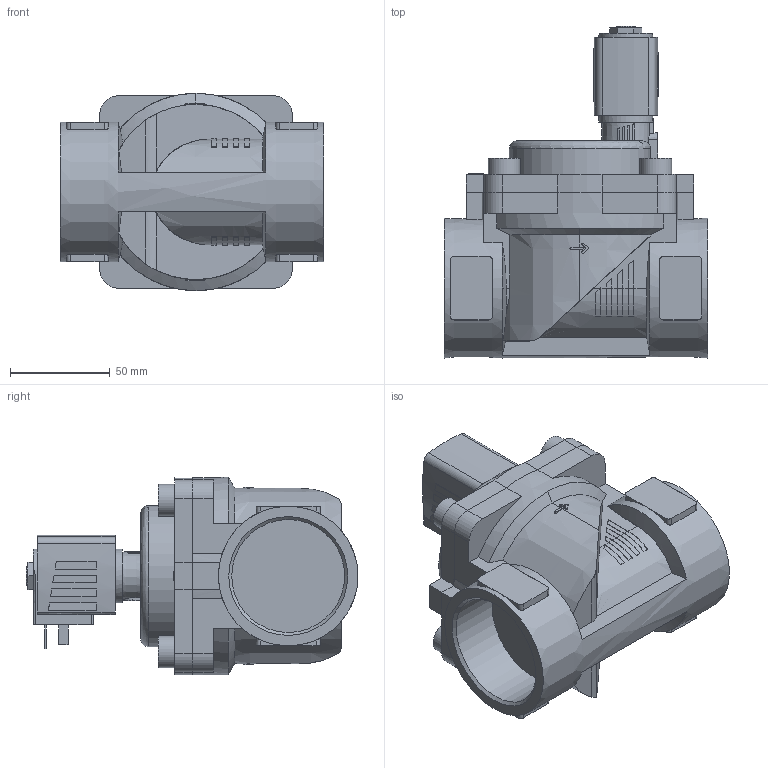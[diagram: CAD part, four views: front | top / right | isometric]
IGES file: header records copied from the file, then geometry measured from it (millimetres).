
Start section: Data from Parasolid IGES Translator 26.0.171, Copyright(c) 2006 Siemens PLM Software. All Rights Reserved.
Global section: file name: 6281-339210-2_2-Way_Solenoid_Valve__Servo-assisted__General_Purpose.igs; native system: By Siemens PLM Incorporated; preprocessor: XPlus GENERIC/IGES 26.0.171; author: Noname; organization: Noname; date: 20240904.080946; units: millimetre
Bounding box: 132 x 166.5 x 99 mm (x, y, z)
Surface area: 103014.2 mm2 (no closed solid volume)
Topology: 0 solids, 0 shells, 371 faces, 2004 edges, 1997 vertices
Faces by surface type: extrusion 242, revolution 129
